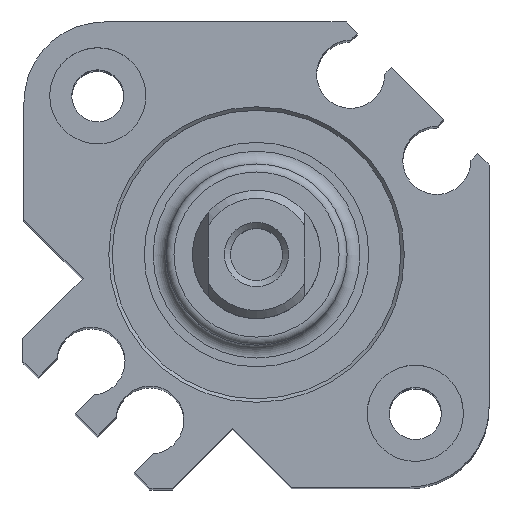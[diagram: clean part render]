
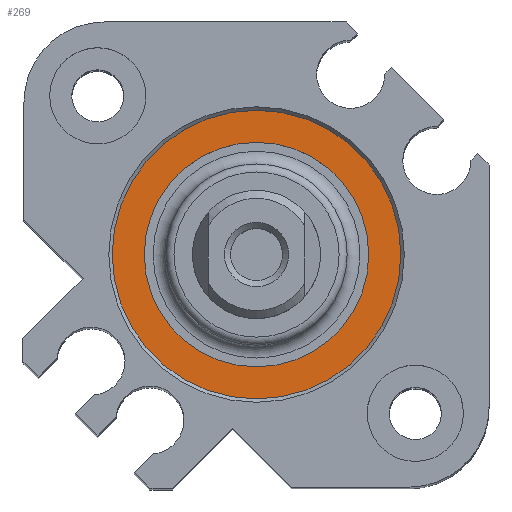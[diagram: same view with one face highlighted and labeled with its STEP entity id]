
A CAD part, top view. The second image highlights one B-rep face of the part: STEP entity #269.
In plain terms, the highlighted planar face has unit normal (0, 0, 1).
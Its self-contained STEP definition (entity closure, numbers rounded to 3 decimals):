
#269 = ADVANCED_FACE( '', ( #569, #570 ), #571, .T. );
#569 = FACE_BOUND( '', #887, .T. );
#570 = FACE_OUTER_BOUND( '', #888, .T. );
#571 = PLANE( '', #889 );
#887 = EDGE_LOOP( '', ( #1452 ) );
#888 = EDGE_LOOP( '', ( #1453 ) );
#889 = AXIS2_PLACEMENT_3D( '', #1454, #1455, #1456 );
#1452 = ORIENTED_EDGE( '', *, *, #1837, .T. );
#1453 = ORIENTED_EDGE( '', *, *, #1712, .F. );
#1454 = CARTESIAN_POINT( '', ( 0., 9., -1.2 ) );
#1455 = DIRECTION( '', ( 0., 0., 1. ) );
#1456 = DIRECTION( '', ( 1., 0., 0. ) );
#1712 = EDGE_CURVE( '', #2011, #2011, #2012, .T. );
#1837 = EDGE_CURVE( '', #2191, #2191, #2192, .T. );
#2011 = VERTEX_POINT( '', #2412 );
#2012 = CIRCLE( '', #2413, 9. );
#2191 = VERTEX_POINT( '', #2642 );
#2192 = CIRCLE( '', #2643, 7. );
#2412 = CARTESIAN_POINT( '', ( -9., 0., -1.2 ) );
#2413 = AXIS2_PLACEMENT_3D( '', #2783, #2784, #2785 );
#2642 = CARTESIAN_POINT( '', ( -7., 0., -1.2 ) );
#2643 = AXIS2_PLACEMENT_3D( '', #2950, #2951, #2952 );
#2783 = CARTESIAN_POINT( '', ( 0., 0., -1.2 ) );
#2784 = DIRECTION( '', ( 0., 0., -1. ) );
#2785 = DIRECTION( '', ( -1., 0., 0. ) );
#2950 = CARTESIAN_POINT( '', ( 0., 0., -1.2 ) );
#2951 = DIRECTION( '', ( 0., 0., -1. ) );
#2952 = DIRECTION( '', ( -1., 0., 0. ) );
